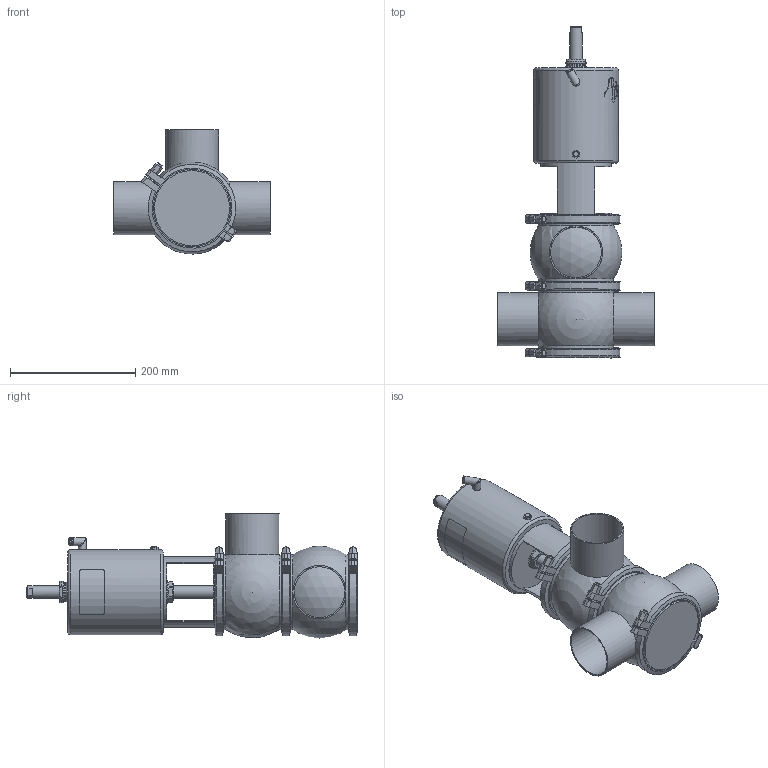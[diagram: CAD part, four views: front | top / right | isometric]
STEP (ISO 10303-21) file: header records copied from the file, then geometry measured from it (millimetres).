
FILE_DESCRIPTION (( 'STEP AP214' ), '1' );
FILE_NAME ('INNOVA M B W DIN 080 T3 AS NC_10.241.16.0004.STEP', '2024-08-07T13:07:08', ( '' ), ( '' ), 'SwSTEP 2.0', 'SolidWorks 2023', '' );
FILE_SCHEMA (( 'AUTOMOTIVE_DESIGN' ));
Length unit declared in the file: millimetre
Products named in the file (7): 10.240.15.0010_DN 080; 10.240.15.0006_DIN 080; 10.240.15.0014_T3 AS P180; 10.241.15.0001_DIN 080; 10.240.15.0007_DIN 080; 10.240.15.0001_DN 080; INNOVA M B W DIN 080 T3 AS NC_10.241.16.0004
Assembly tree (8 placements, depth 2):
  INNOVA M B W DIN 080 T3 AS NC_10.241.16.0004
    10.240.15.0006_DIN 080
    10.240.15.0007_DIN 080
    10.240.15.0010_DN 080
    10.240.15.0014_T3 AS P180
    10.240.15.0001_DN 080  x3
    10.241.15.0001_DIN 080
Bounding box: 250 x 530.63 x 198.5 mm (x, y, z)
Volume: 5865469 mm3; surface area: 532577.1 mm2
Topology: 9 solids, 9 shells, 464 faces, 1238 edges, 807 vertices
Faces by surface type: plane 226, cylinder 112, bspline 80, cone 36, sphere 6, torus 4
Full cylindrical faces by diameter (mm): 6.15 x1, 8 x7, 8.5 x1, 10.5 x1, 12.5 x3, 16 x1, 20 x2, 31 x1, 34.5 x2, 36.5 x1, 81 x3, 85 x3, 113 x1, 120 x5, 132 x6, 136 x1
Entity records: 20840 total; most frequent: CARTESIAN_POINT 11364, ORIENTED_EDGE 1646, DIRECTION 1283, EDGE_CURVE 823, VERTEX_POINT 568, AXIS2_PLACEMENT_3D 497, EDGE_LOOP 427, FACE_OUTER_BOUND 385
